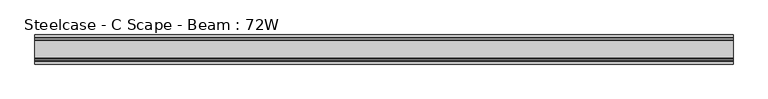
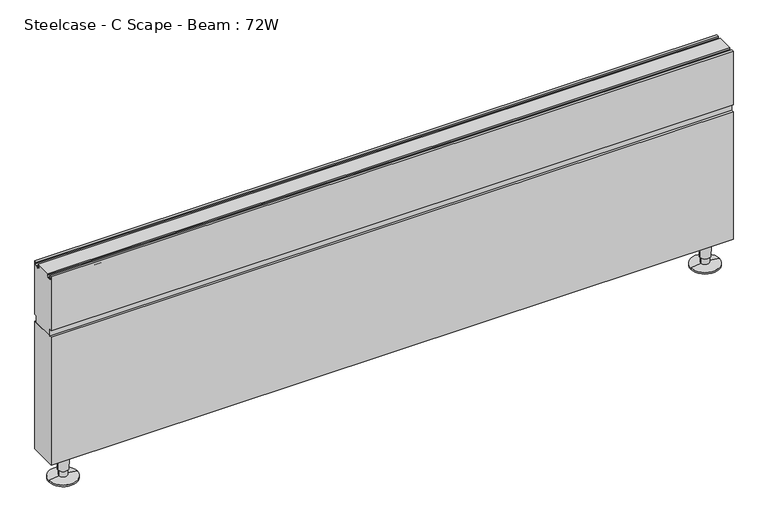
"""IFC4 building model written with IfcOpenShell, lengths in millimetres: furniture geometry, Steelcase - C Scape - Beam : 72W."""

from ifc_helpers import new_model, si_unit, frame, origin, place, context, project, spatial, polyline, circle_curve, outline, extrude, source, transform, mapped, element, save
from ifc_brep_helpers import plane_surface, cylinder_surface, revolved_surface, advanced_brep


def steelcase_c_scape_beam_72w_fb518b5c(model_context):
    return source(origin(), model_context, "Body", "SolidModel", [
        advanced_brep(
        [(1789.0377849, -38.1, 25.4), (1761.6993351, -38.1, 25.4), (1759.92536, -38.1, 76.2), (1790.81176, -38.1, 76.2), (1786.3056589, -38.1, 25.4), (1764.4314611, -38.1, 25.4), (1786.3056589, -38.1, 8.099626), (1764.4314611, -38.1, 8.099626), (1813.4793277, -38.1, 4.2806159), (1737.2577923, -38.1, 4.2806159), (1813.4793277, -38.1, 0.0), (1737.2577923, -38.1, 0.0), (1775.36856, -38.1, 0.0), (1775.36856, -38.1, 76.2)],
        [
            (0, 1, circle_curve(frame((1775.36856, -38.1, 25.4), z_axis=(0.0, 0.0, 1.0), x_axis=(-1.0, 0.0, 0.0)), 13.6692249)),
            (1, 2),
            (2, 3, circle_curve(frame((1775.36856, -38.1, 76.2), z_axis=(0.0, 0.0, -1.0), x_axis=(-1.0, 0.0, 0.0)), 15.4432)),
            (3, 0),
            (1, 0, circle_curve(frame((1775.36856, -38.1, 25.4), z_axis=(0.0, 0.0, 1.0), x_axis=(-1.0, 0.0, 0.0)), 13.6692249)),
            (3, 2, circle_curve(frame((1775.36856, -38.1, 76.2), z_axis=(0.0, 0.0, -1.0), x_axis=(-1.0, 0.0, 0.0)), 15.4432)),
            (4, 5, circle_curve(frame((1775.36856, -38.1, 25.4), z_axis=(0.0, 0.0, 1.0), x_axis=(-1.0, 0.0, 0.0)), 10.9370989)),
            (5, 1),
            (0, 4),
            (5, 4, circle_curve(frame((1775.36856, -38.1, 25.4), z_axis=(0.0, 0.0, 1.0), x_axis=(-1.0, 0.0, 0.0)), 10.9370989)),
            (6, 7, circle_curve(frame((1775.36856, -38.1, 8.099626), z_axis=(0.0, 0.0, 1.0), x_axis=(-1.0, 0.0, 0.0)), 10.9370989)),
            (7, 5),
            (4, 6),
            (7, 6, circle_curve(frame((1775.36856, -38.1, 8.099626), z_axis=(0.0, 0.0, 1.0), x_axis=(-1.0, 0.0, 0.0)), 10.9370989)),
            (8, 9, circle_curve(frame((1775.36856, -38.1, 4.2806159), z_axis=(0.0, 0.0, 1.0), x_axis=(-1.0, 0.0, 0.0)), 38.1107677)),
            (9, 7),
            (6, 8),
            (9, 8, circle_curve(frame((1775.36856, -38.1, 4.2806159), z_axis=(0.0, 0.0, 1.0), x_axis=(-1.0, 0.0, 0.0)), 38.1107677)),
            (10, 11, circle_curve(frame((1775.36856, -38.1, 0.0), z_axis=(0.0, 0.0, 1.0), x_axis=(-1.0, 0.0, 0.0)), 38.1107677)),
            (11, 9),
            (8, 10),
            (11, 10, circle_curve(frame((1775.36856, -38.1, 0.0), z_axis=(0.0, 0.0, 1.0), x_axis=(-1.0, 0.0, 0.0)), 38.1107677)),
            (12, 11),
            (10, 12),
            (2, 13),
            (13, 3),
        ],
        [
            revolved_surface(polyline([(1759.92536, -38.1, 76.2), (1761.6993351, -38.1, 25.4)]), (1775.36856, -38.1, 76.2), (0.0, 0.0, -1.0)),
            plane_surface(frame((1775.36856, -38.1, 25.4), z_axis=(0.0, 0.0, -1.0), x_axis=(-1.0, 0.0, 0.0))),
            cylinder_surface(frame((1775.36856, -38.1, 76.2), z_axis=(0.0, 0.0, -1.0), x_axis=(-1.0, 0.0, 0.0)), 10.9370989),
            revolved_surface(polyline([(1764.4314611, -38.1, 8.099626), (1737.2577923, -38.1, 4.2806159)]), (1775.36856, -38.1, 76.2), (0.0, 0.0, -1.0)),
            cylinder_surface(frame((1775.36856, -38.1, 76.2), z_axis=(0.0, 0.0, -1.0), x_axis=(-1.0, 0.0, 0.0)), 38.1107677),
            plane_surface(frame((1775.36856, -38.1, 0.0), z_axis=(0.0, 0.0, -1.0), x_axis=(-1.0, 0.0, 0.0))),
            plane_surface(frame((1775.36856, -38.1, 76.2), z_axis=(0.0, 0.0, 1.0), x_axis=(-1.0, 0.0, 0.0))),
        ],
        [
            (0, [[1, 2, 3, 4]]),
            (0, [[5, -4, 6, -2]]),
            (1, [[7, 8, -1, 9]]),
            (1, [[10, -9, -5, -8]]),
            (2, [[11, 12, -7, 13]]),
            (2, [[14, -13, -10, -12]]),
            (3, [[15, 16, -11, 17]]),
            (3, [[18, -17, -14, -16]]),
            (4, [[19, 20, -15, 21]]),
            (4, [[22, -21, -18, -20]]),
            (5, [[23, -19, 24]]),
            (5, [[-24, -22, -23]]),
            (6, [[-3, 25, 26]]),
            (6, [[-6, -26, -25]]),
        ],
    ),
        advanced_brep(
        [(67.1006649, -38.1, 25.4), (39.7622151, -38.1, 25.4), (37.98824, -38.1, 76.2), (68.87464, -38.1, 76.2), (64.3685389, -38.1, 25.4), (42.4943411, -38.1, 25.4), (64.3685389, -38.1, 8.099626), (42.4943411, -38.1, 8.099626), (91.5422077, -38.1, 4.2806159), (15.3206723, -38.1, 4.2806159), (91.5422077, -38.1, 0.0), (15.3206723, -38.1, 0.0), (53.43144, -38.1, 0.0), (53.43144, -38.1, 76.2)],
        [
            (0, 1, circle_curve(frame((53.43144, -38.1, 25.4), z_axis=(0.0, 0.0, 1.0), x_axis=(-1.0, 0.0, 0.0)), 13.6692249)),
            (1, 2),
            (2, 3, circle_curve(frame((53.43144, -38.1, 76.2), z_axis=(0.0, 0.0, -1.0), x_axis=(-1.0, 0.0, 0.0)), 15.4432)),
            (3, 0),
            (1, 0, circle_curve(frame((53.43144, -38.1, 25.4), z_axis=(0.0, 0.0, 1.0), x_axis=(-1.0, 0.0, 0.0)), 13.6692249)),
            (3, 2, circle_curve(frame((53.43144, -38.1, 76.2), z_axis=(0.0, 0.0, -1.0), x_axis=(-1.0, 0.0, 0.0)), 15.4432)),
            (4, 5, circle_curve(frame((53.43144, -38.1, 25.4), z_axis=(0.0, 0.0, 1.0), x_axis=(-1.0, 0.0, 0.0)), 10.9370989)),
            (5, 1),
            (0, 4),
            (5, 4, circle_curve(frame((53.43144, -38.1, 25.4), z_axis=(0.0, 0.0, 1.0), x_axis=(-1.0, 0.0, 0.0)), 10.9370989)),
            (6, 7, circle_curve(frame((53.43144, -38.1, 8.099626), z_axis=(0.0, 0.0, 1.0), x_axis=(-1.0, 0.0, 0.0)), 10.9370989)),
            (7, 5),
            (4, 6),
            (7, 6, circle_curve(frame((53.43144, -38.1, 8.099626), z_axis=(0.0, 0.0, 1.0), x_axis=(-1.0, 0.0, 0.0)), 10.9370989)),
            (8, 9, circle_curve(frame((53.43144, -38.1, 4.2806159), z_axis=(0.0, 0.0, 1.0), x_axis=(-1.0, 0.0, 0.0)), 38.1107677)),
            (9, 7),
            (6, 8),
            (9, 8, circle_curve(frame((53.43144, -38.1, 4.2806159), z_axis=(0.0, 0.0, 1.0), x_axis=(-1.0, 0.0, 0.0)), 38.1107677)),
            (10, 11, circle_curve(frame((53.43144, -38.1, 0.0), z_axis=(0.0, 0.0, 1.0), x_axis=(-1.0, 0.0, 0.0)), 38.1107677)),
            (11, 9),
            (8, 10),
            (11, 10, circle_curve(frame((53.43144, -38.1, 0.0), z_axis=(0.0, 0.0, 1.0), x_axis=(-1.0, 0.0, 0.0)), 38.1107677)),
            (12, 11),
            (10, 12),
            (2, 13),
            (13, 3),
        ],
        [
            revolved_surface(polyline([(37.98824, -38.1, 76.2), (39.7622151, -38.1, 25.4)]), (53.43144, -38.1, 76.2), (0.0, 0.0, -1.0)),
            plane_surface(frame((53.43144, -38.1, 25.4), z_axis=(0.0, 0.0, -1.0), x_axis=(-1.0, 0.0, 0.0))),
            cylinder_surface(frame((53.43144, -38.1, 76.2), z_axis=(0.0, 0.0, -1.0), x_axis=(-1.0, 0.0, 0.0)), 10.9370989),
            revolved_surface(polyline([(42.4943411, -38.1, 8.099626), (15.3206723, -38.1, 4.2806159)]), (53.43144, -38.1, 76.2), (0.0, 0.0, -1.0)),
            cylinder_surface(frame((53.43144, -38.1, 76.2), z_axis=(0.0, 0.0, -1.0), x_axis=(-1.0, 0.0, 0.0)), 38.1107677),
            plane_surface(frame((53.43144, -38.1, 0.0), z_axis=(0.0, 0.0, -1.0), x_axis=(-1.0, 0.0, 0.0))),
            plane_surface(frame((53.43144, -38.1, 76.2), z_axis=(0.0, 0.0, 1.0), x_axis=(-1.0, 0.0, 0.0))),
        ],
        [
            (0, [[1, 2, 3, 4]]),
            (0, [[5, -4, 6, -2]]),
            (1, [[7, 8, -1, 9]]),
            (1, [[10, -9, -5, -8]]),
            (2, [[11, 12, -7, 13]]),
            (2, [[14, -13, -10, -12]]),
            (3, [[15, 16, -11, 17]]),
            (3, [[18, -17, -14, -16]]),
            (4, [[19, 20, -15, 21]]),
            (4, [[22, -21, -18, -20]]),
            (5, [[23, -19, 24]]),
            (5, [[-24, -22, -23]]),
            (6, [[-3, 25, 26]]),
            (6, [[-6, -26, -25]]),
        ],
    ),
        extrude(outline(polyline([(1828.8, 0.0), (1828.8, -76.2), (0.0, -76.2), (0.0, 0.0), (1828.8, 0.0)])), frame((0.0, 0.0, 76.2), z_axis=(0.0, 0.0, 1.0), x_axis=(1.0, 0.0, 0.0)), (0.0, 0.0, 1.0), 361.95),
        extrude(outline(polyline([(-60.3249516, 609.6), (-15.8749758, 609.6), (-15.8749758, 605.7899855), (-19.6849903, 605.7899855), (-19.6849903, 601.9800073), (-15.3670126, 599.4869908), (-14.2747828, 599.4869908), (-14.2747828, 597.1539937), (-7.924807, 597.1539937), (-7.924807, 599.4435342), (-6.8325771, 599.4435342), (-2.5399612, 601.9800073), (-2.5399612, 605.7899855), (-6.3499758, 605.7899855), (-6.3499758, 609.6), (0.0, 609.6), (0.0, 457.2), (-6.3499758, 457.2), (-6.3499758, 438.15), (-69.8499516, 438.15), (-69.8499516, 457.2), (-76.2, 457.2), (-76.2, 609.6), (-69.8499516, 609.6), (-69.8499516, 605.7899855), (-73.6599661, 605.7899855), (-73.6599661, 601.9800073), (-69.3419884, 599.4869908), (-68.2497585, 599.4869908), (-68.2497585, 597.1539937), (-61.8997828, 597.1539937), (-61.8997828, 599.4435342), (-60.8075529, 599.4435342), (-56.514937, 601.9800073), (-56.514937, 605.7899855), (-60.3249516, 605.7899855), (-60.3249516, 609.6)])), frame((0.0, 0.0, 0.0), z_axis=(1.0, 0.0, 0.0), x_axis=(0.0, 1.0, 0.0)), (0.0, 0.0, 1.0), 1828.8),
    ])


if __name__ == "__main__":
    model = new_model("IFC4")
    model_context = context("Model", 3, world=origin())
    ifc_project = project(units=[si_unit("LENGTHUNIT", "METRE", prefix="MILLI")], contexts=[model_context])
    site = spatial("IfcSite", under=ifc_project)
    building = spatial("IfcBuilding", under=site)
    placement = place(None, origin())
    steelcase_c_scape_beam_72w_shape = steelcase_c_scape_beam_72w_fb518b5c(model_context)
    element("IfcFurniture", 1, ObjectType="Steelcase - C Scape - Beam : 72W", at=placement, inside=building, context=model_context, shape_type="MappedRepresentation", body=[
        mapped(steelcase_c_scape_beam_72w_shape, transform((0.0, 0.0, 0.0), x_axis=(1.0, 0.0, 0.0), y_axis=(0.0, 1.0, 0.0), z_axis=(0.0, 0.0, 1.0))),
    ])
    save(model, "model.ifc")
